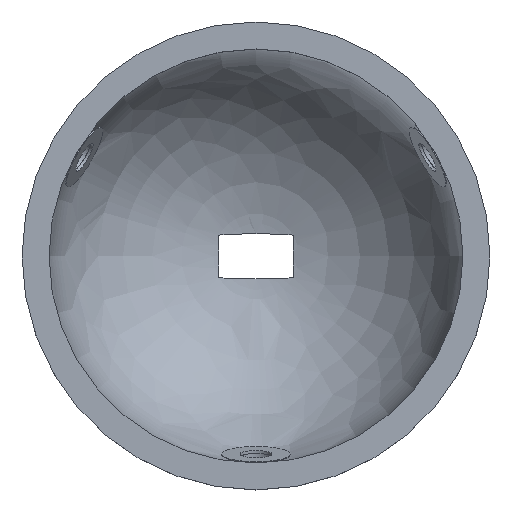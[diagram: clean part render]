
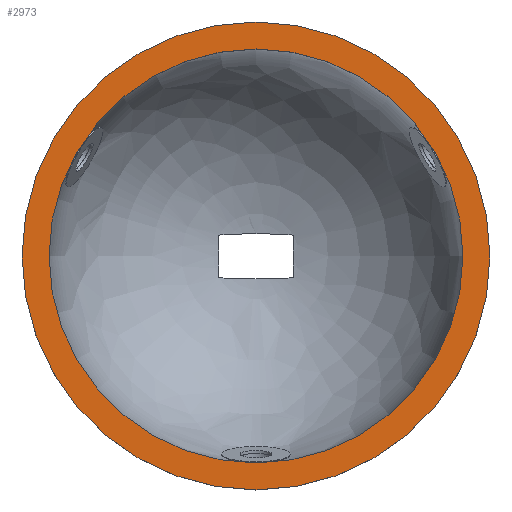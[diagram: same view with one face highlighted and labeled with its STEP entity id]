
A CAD part, top view. The second image highlights one B-rep face of the part: STEP entity #2973.
In plain terms, the highlighted planar face has unit normal (0, 0, 1).
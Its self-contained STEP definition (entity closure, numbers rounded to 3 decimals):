
#645 = CYLINDRICAL_SURFACE('',#646,23.);
#646 = AXIS2_PLACEMENT_3D('',#647,#648,#649);
#647 = CARTESIAN_POINT('',(0.,0.,-4.));
#648 = DIRECTION('',(0.,0.,1.));
#649 = DIRECTION('',(1.,0.,-0.));
#2281 = VERTEX_POINT('',#2282);
#2282 = CARTESIAN_POINT('',(23.,0.,0.));
#2303 = EDGE_CURVE('',#2281,#2281,#2304,.T.);
#2304 = SURFACE_CURVE('',#2305,(#2310,#2317),.PCURVE_S1.);
#2305 = CIRCLE('',#2306,23.);
#2306 = AXIS2_PLACEMENT_3D('',#2307,#2308,#2309);
#2307 = CARTESIAN_POINT('',(0.,0.,0.));
#2308 = DIRECTION('',(0.,0.,1.));
#2309 = DIRECTION('',(1.,0.,-0.));
#2310 = PCURVE('',#645,#2311);
#2311 = DEFINITIONAL_REPRESENTATION('',(#2312),#2316);
#2312 = LINE('',#2313,#2314);
#2313 = CARTESIAN_POINT('',(0.,4.));
#2314 = VECTOR('',#2315,1.);
#2315 = DIRECTION('',(1.,0.));
#2316 = ( GEOMETRIC_REPRESENTATION_CONTEXT(2) 
PARAMETRIC_REPRESENTATION_CONTEXT() REPRESENTATION_CONTEXT('2D SPACE',''
  ) );
#2317 = PCURVE('',#2318,#2323);
#2318 = PLANE('',#2319);
#2319 = AXIS2_PLACEMENT_3D('',#2320,#2321,#2322);
#2320 = CARTESIAN_POINT('',(0.,0.,0.));
#2321 = DIRECTION('',(0.,0.,1.));
#2322 = DIRECTION('',(1.,0.,-0.));
#2323 = DEFINITIONAL_REPRESENTATION('',(#2324),#2328);
#2324 = CIRCLE('',#2325,23.);
#2325 = AXIS2_PLACEMENT_2D('',#2326,#2327);
#2326 = CARTESIAN_POINT('',(0.,0.));
#2327 = DIRECTION('',(1.,-0.));
#2328 = ( GEOMETRIC_REPRESENTATION_CONTEXT(2) 
PARAMETRIC_REPRESENTATION_CONTEXT() REPRESENTATION_CONTEXT('2D SPACE',''
  ) );
#2973 = ADVANCED_FACE('',(#2974,#2977),#2318,.T.);
#2974 = FACE_BOUND('',#2975,.F.);
#2975 = EDGE_LOOP('',(#2976));
#2976 = ORIENTED_EDGE('',*,*,#2303,.T.);
#2977 = FACE_BOUND('',#2978,.F.);
#2978 = EDGE_LOOP('',(#2979));
#2979 = ORIENTED_EDGE('',*,*,#2980,.F.);
#2980 = EDGE_CURVE('',#2981,#2981,#2983,.T.);
#2981 = VERTEX_POINT('',#2982);
#2982 = CARTESIAN_POINT('',(26.,0.,0.));
#2983 = SURFACE_CURVE('',#2984,(#2989,#2996),.PCURVE_S1.);
#2984 = CIRCLE('',#2985,26.);
#2985 = AXIS2_PLACEMENT_3D('',#2986,#2987,#2988);
#2986 = CARTESIAN_POINT('',(0.,0.,0.));
#2987 = DIRECTION('',(0.,0.,1.));
#2988 = DIRECTION('',(1.,0.,-0.));
#2989 = PCURVE('',#2318,#2990);
#2990 = DEFINITIONAL_REPRESENTATION('',(#2991),#2995);
#2991 = CIRCLE('',#2992,26.);
#2992 = AXIS2_PLACEMENT_2D('',#2993,#2994);
#2993 = CARTESIAN_POINT('',(0.,0.));
#2994 = DIRECTION('',(1.,-0.));
#2995 = ( GEOMETRIC_REPRESENTATION_CONTEXT(2) 
PARAMETRIC_REPRESENTATION_CONTEXT() REPRESENTATION_CONTEXT('2D SPACE',''
  ) );
#2996 = PCURVE('',#2997,#3002);
#2997 = CYLINDRICAL_SURFACE('',#2998,26.);
#2998 = AXIS2_PLACEMENT_3D('',#2999,#3000,#3001);
#2999 = CARTESIAN_POINT('',(0.,0.,0.));
#3000 = DIRECTION('',(-0.,-0.,-1.));
#3001 = DIRECTION('',(1.,0.,0.));
#3002 = DEFINITIONAL_REPRESENTATION('',(#3003),#3007);
#3003 = LINE('',#3004,#3005);
#3004 = CARTESIAN_POINT('',(-0.,0.));
#3005 = VECTOR('',#3006,1.);
#3006 = DIRECTION('',(-1.,0.));
#3007 = ( GEOMETRIC_REPRESENTATION_CONTEXT(2) 
PARAMETRIC_REPRESENTATION_CONTEXT() REPRESENTATION_CONTEXT('2D SPACE',''
  ) );
